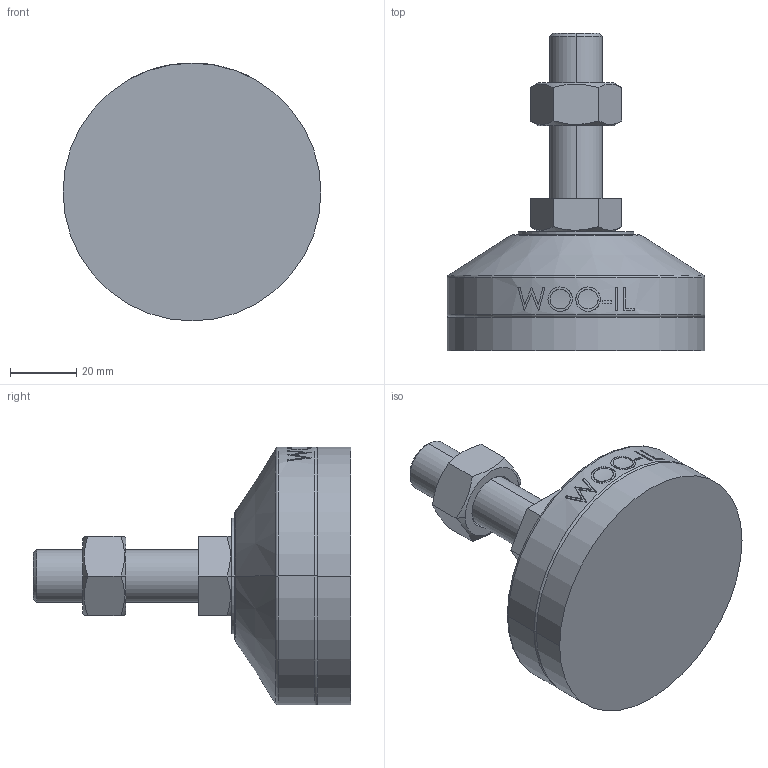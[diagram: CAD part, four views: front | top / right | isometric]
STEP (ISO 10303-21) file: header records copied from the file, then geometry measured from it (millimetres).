
FILE_DESCRIPTION (( 'STEP AP214' ), '1' );
FILE_NAME ('MFR78-M16-50.step', '2021-01-13T05:38:10', ( '' ), ( '' ), 'SwSTEP 2.0', 'SolidWorks 2019', '' );
FILE_SCHEMA (( 'AUTOMOTIVE_DESIGN' ));
Length unit declared in the file: millimetre
Products named in the file (2): MFR78-M16-50
Bounding box: 78 x 96 x 78 mm (x, y, z)
Volume: 161993.7 mm3; surface area: 31786.4 mm2
Topology: 4 solids, 4 shells, 103 faces, 235 edges, 150 vertices
Faces by surface type: plane 49, cylinder 18, bspline 16, cone 14, torus 6
Entity records: 4435 total; most frequent: CARTESIAN_POINT 2162, ORIENTED_EDGE 470, DIRECTION 417, EDGE_CURVE 235, AXIS2_PLACEMENT_3D 159, VERTEX_POINT 150, EDGE_LOOP 115, FACE_OUTER_BOUND 103
